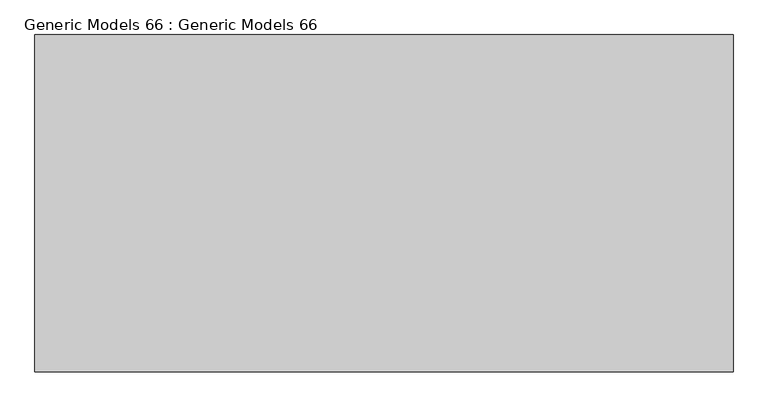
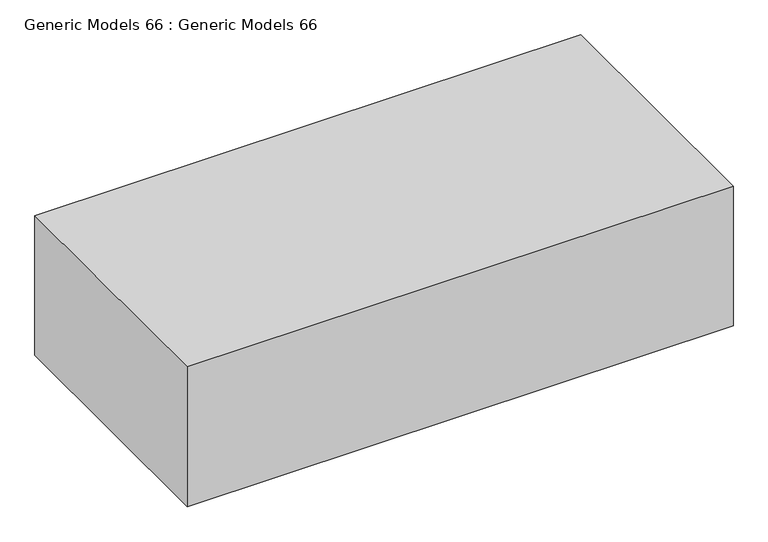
"""IFC4 building model written with IfcOpenShell, lengths in millimetres: proxy geometry, Generic Models 66 : Generic Models 66."""

from ifc_helpers import new_model, si_unit, origin, place, context, project, spatial, faceted_brep, source, transform, mapped, element, save


def generic_models_66_generic_models_66_cc2a3090(model_context):
    return source(origin(), model_context, "Body", "Brep", [
        faceted_brep([(-1720.85, 9486.9, 6299.2), (-1720.85, 9486.9, 5943.6), (-1720.85, 8851.9, 5943.6), (-1720.85, 8851.9, 6299.2), (-1720.85, 9017.0, 6299.2), (-406.4, 9486.9, 6299.2), (-406.4, 8851.9, 6299.2), (-406.4, 8851.9, 5943.6), (-406.4, 9486.9, 5943.6)], [[[0, 1, 2, 3, 4]], [[5, 6, 7, 8]], [[1, 0, 5, 8]], [[2, 1, 8, 7]], [[3, 2, 7, 6]], [[0, 4, 3, 6, 5]]]),
    ])


if __name__ == "__main__":
    model = new_model("IFC4")
    model_context = context("Model", 3, world=origin())
    ifc_project = project(units=[si_unit("LENGTHUNIT", "METRE", prefix="MILLI")], contexts=[model_context])
    site = spatial("IfcSite", under=ifc_project)
    building = spatial("IfcBuilding", under=site)
    placement = place(None, origin())
    generic_models_66_generic_models_66_shape = generic_models_66_generic_models_66_cc2a3090(model_context)
    element("IfcBuildingElementProxy", 1, Name="Generic Models 66 : Generic Models 66", ObjectType="Generic Models 66 : Generic Models 66", at=placement, inside=building, context=model_context, shape_type="MappedRepresentation", body=[
        mapped(generic_models_66_generic_models_66_shape, transform((0.0, 0.0, 0.0), x_axis=(1.0, 0.0, 0.0), y_axis=(0.0, 1.0, 0.0), z_axis=(0.0, 0.0, 1.0))),
    ])
    save(model, "model.ifc")
